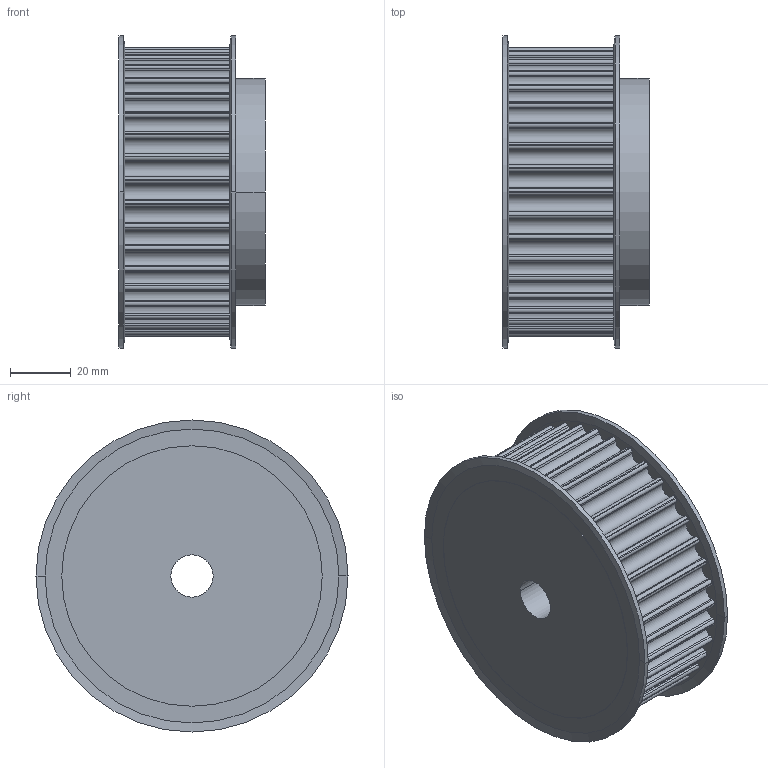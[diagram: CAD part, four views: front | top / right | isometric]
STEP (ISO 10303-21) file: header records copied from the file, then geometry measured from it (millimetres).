
FILE_DESCRIPTION( ( '' ), '1' );
FILE_NAME( 'C:/Users/Stangenbergd/Documents/CAD_Step/1/17421900.stp', '2021-10-19T10:10:46', ( '' ), ( '' ), ' ', ' ', ' ' );
FILE_SCHEMA( ( 'CONFIG_CONTROL_DESIGN' ) );
Length unit declared in the file: millimetre
Products named in the file (1): 1
Bounding box: 48.27 x 103 x 103 mm (x, y, z)
Volume: 289732.7 mm3; surface area: 40786.7 mm2
Topology: 1 solids, 1 shells, 255 faces, 736 edges, 488 vertices
Faces by surface type: cylinder 164, plane 83, cone 8
Entity records: 8570 total; most frequent: DIRECTION 1584, CARTESIAN_POINT 1480, ORIENTED_EDGE 1472, EDGE_CURVE 736, AXIS2_PLACEMENT_3D 592, VERTEX_POINT 488, LINE 400, VECTOR 400
